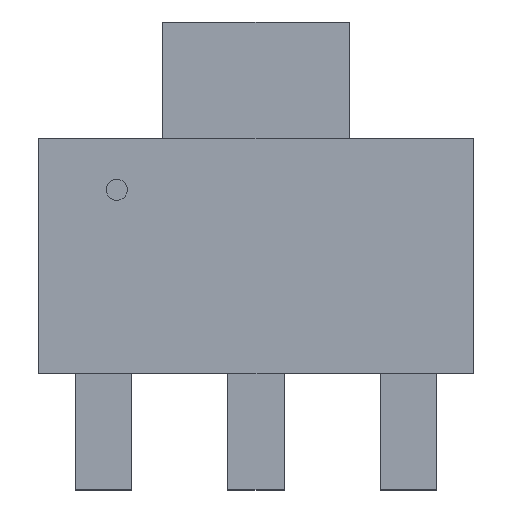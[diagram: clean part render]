
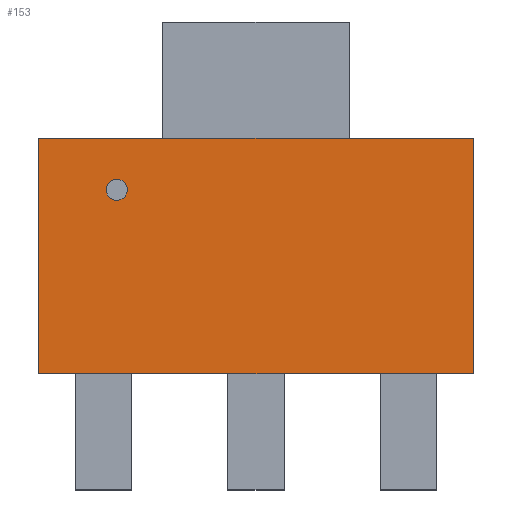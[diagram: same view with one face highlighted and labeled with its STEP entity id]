
A CAD part, top view. The second image highlights one B-rep face of the part: STEP entity #153.
In plain terms, the highlighted planar face has unit normal (0, 0, 1).
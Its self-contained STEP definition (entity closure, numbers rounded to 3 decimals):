
#24 = VERTEX_POINT('',#25);
#25 = CARTESIAN_POINT('',(-3.275,-1.775,1.65));
#31 = EDGE_CURVE('',#24,#32,#34,.T.);
#32 = VERTEX_POINT('',#33);
#33 = CARTESIAN_POINT('',(3.275,-1.775,1.65));
#34 = LINE('',#35,#36);
#35 = CARTESIAN_POINT('',(-3.275,-1.775,1.65));
#36 = VECTOR('',#37,1.);
#37 = DIRECTION('',(1.,0.,0.));
#62 = EDGE_CURVE('',#32,#63,#65,.T.);
#63 = VERTEX_POINT('',#64);
#64 = CARTESIAN_POINT('',(3.275,1.775,1.65));
#65 = LINE('',#66,#67);
#66 = CARTESIAN_POINT('',(3.275,-1.775,1.65));
#67 = VECTOR('',#68,1.);
#68 = DIRECTION('',(0.,1.,0.));
#93 = EDGE_CURVE('',#63,#94,#96,.T.);
#94 = VERTEX_POINT('',#95);
#95 = CARTESIAN_POINT('',(-3.275,1.775,1.65));
#96 = LINE('',#97,#98);
#97 = CARTESIAN_POINT('',(3.275,1.775,1.65));
#98 = VECTOR('',#99,1.);
#99 = DIRECTION('',(-1.,0.,0.));
#124 = EDGE_CURVE('',#94,#24,#125,.T.);
#125 = LINE('',#126,#127);
#126 = CARTESIAN_POINT('',(-3.275,1.775,1.65));
#127 = VECTOR('',#128,1.);
#128 = DIRECTION('',(0.,-1.,0.));
#153 = ADVANCED_FACE('',(#154),#160,.T.);
#154 = FACE_BOUND('',#155,.T.);
#155 = EDGE_LOOP('',(#156,#157,#158,#159));
#156 = ORIENTED_EDGE('',*,*,#31,.T.);
#157 = ORIENTED_EDGE('',*,*,#62,.T.);
#158 = ORIENTED_EDGE('',*,*,#93,.T.);
#159 = ORIENTED_EDGE('',*,*,#124,.T.);
#160 = PLANE('',#161);
#161 = AXIS2_PLACEMENT_3D('',#162,#163,#164);
#162 = CARTESIAN_POINT('',(0.,0.,1.65));
#163 = DIRECTION('',(0.,0.,1.));
#164 = DIRECTION('',(1.,0.,-0.));
